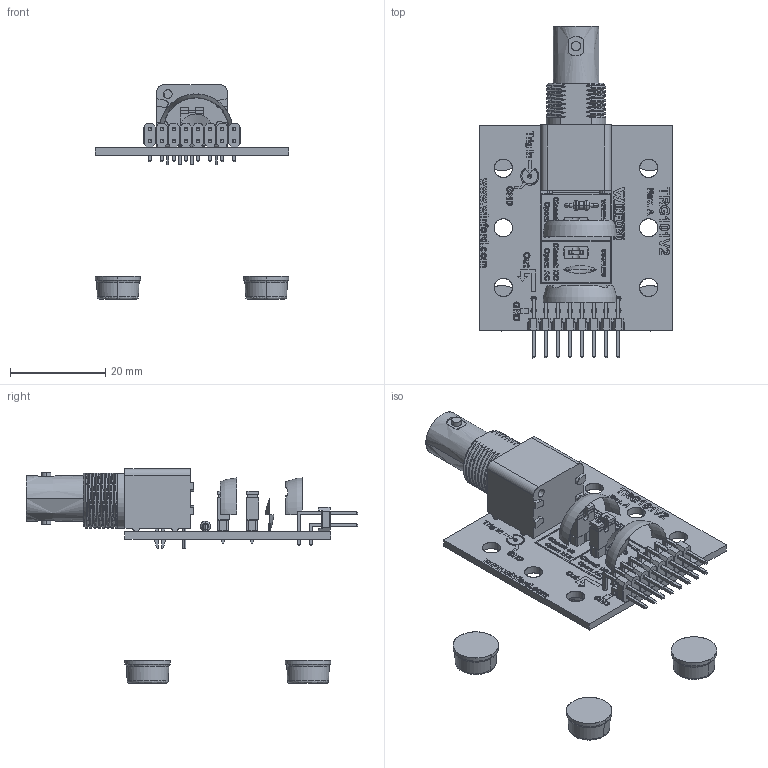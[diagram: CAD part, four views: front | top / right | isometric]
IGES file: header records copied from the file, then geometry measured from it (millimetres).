
Start section: SolidWorks IGES file using analytic representation for surfaces
Global section: file name: W:\end-user\products\trg\trg101\3dmodel\v2_rev_a\render\trg101v2-ft_rev_a.igs; native system: SolidWorks 2018; preprocessor: SolidWorks 2018; author: leviroy; date: 220729.154437; units: inch
Bounding box: 40.64 x 69.66 x 45.03 mm (x, y, z)
Surface area: 9562.1 mm2 (no closed solid volume)
Topology: 0 solids, 0 shells, 3112 faces, 25098 edges, 25084 vertices
Faces by surface type: bspline 2705, revolution 407
